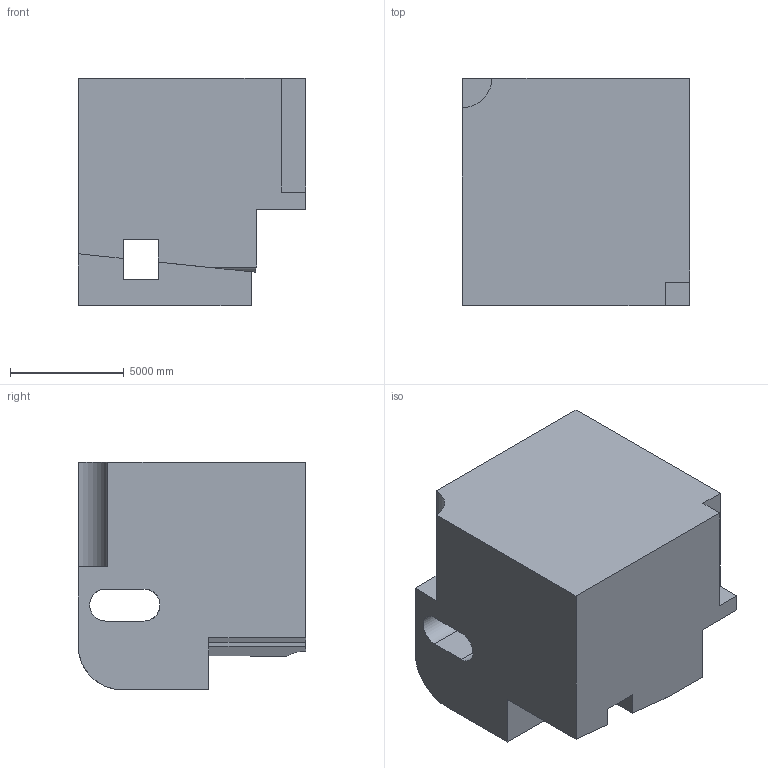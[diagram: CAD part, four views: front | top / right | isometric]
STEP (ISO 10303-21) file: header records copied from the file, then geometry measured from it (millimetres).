
FILE_DESCRIPTION (( 'STEP AP203' ), '1' );
FILE_NAME ('741.STEP', '2022-07-29T12:52:58', ( 'user' ), ( '' ), 'SwSTEP 2.0', 'SolidWorks 2021', '' );
FILE_SCHEMA (( 'CONFIG_CONTROL_DESIGN' ));
Length unit declared in the file: centimetre
Products named in the file (1): 741
Bounding box: 10000 x 10000 x 10000 mm (x, y, z)
Volume: 765190130982 mm3; surface area: 642313301.2 mm2
Topology: 1 solids, 1 shells, 27 faces, 84 edges, 56 vertices
Faces by surface type: plane 22, cylinder 5
Entity records: 1012 total; most frequent: CARTESIAN_POINT 183, ORIENTED_EDGE 168, DIRECTION 144, EDGE_CURVE 84, LINE 70, VECTOR 70, VERTEX_POINT 56, AXIS2_PLACEMENT_3D 37
